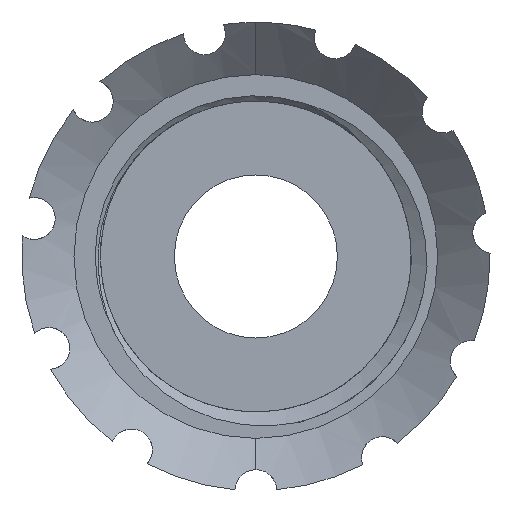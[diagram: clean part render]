
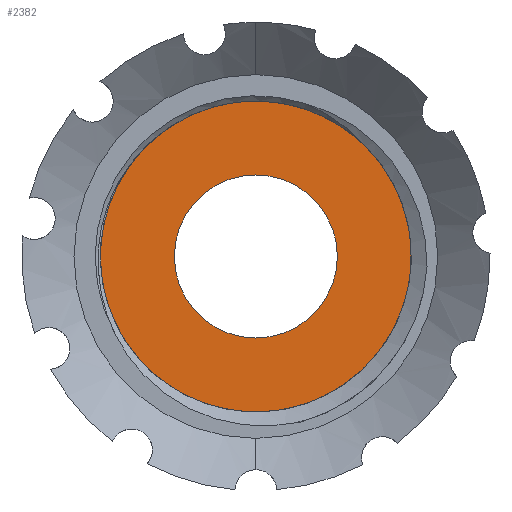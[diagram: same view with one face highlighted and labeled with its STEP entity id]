
A CAD part, front view. The second image highlights one B-rep face of the part: STEP entity #2382.
In plain terms, the highlighted planar face has unit normal (0, -1, 0).
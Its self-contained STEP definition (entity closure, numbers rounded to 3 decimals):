
#7 = CARTESIAN_POINT ( 'NONE',  ( 5.926, 3.75, -4.492 ) ) ;
#70 = CARTESIAN_POINT ( 'NONE',  ( 6.214, 3.75, 4.976 ) ) ;
#85 = CARTESIAN_POINT ( 'NONE',  ( 6.873, 3.75, 3.891 ) ) ;
#89 = CARTESIAN_POINT ( 'NONE',  ( 5.336, 3.75, -5.271 ) ) ;
#140 = CARTESIAN_POINT ( 'NONE',  ( 3.9, 3.75, 0. ) ) ;
#150 = VERTEX_POINT ( 'NONE', #2504 ) ;
#310 = ORIENTED_EDGE ( 'NONE', *, *, #1003, .T. ) ;
#338 = CARTESIAN_POINT ( 'NONE',  ( 7.218, 3.75, -2.305 ) ) ;
#357 = ORIENTED_EDGE ( 'NONE', *, *, #1772, .F. ) ;
#361 = CARTESIAN_POINT ( 'NONE',  ( 2.91, 3.75, -6.912 ) ) ;
#395 = CARTESIAN_POINT ( 'NONE',  ( 4.924, 3.75, 6.393 ) ) ;
#407 = CARTESIAN_POINT ( 'NONE',  ( 0., 3.75, 0. ) ) ;
#520 = DIRECTION ( 'NONE',  ( 1., 0., 0. ) ) ;
#527 = CARTESIAN_POINT ( 'NONE',  ( -5.422, 3.75, -5.208 ) ) ;
#591 = DIRECTION ( 'NONE',  ( 0., 0., -1. ) ) ;
#628 = ORIENTED_EDGE ( 'NONE', *, *, #3462, .T. ) ;
#637 = CARTESIAN_POINT ( 'NONE',  ( -2.809, 3.75, -6.903 ) ) ;
#650 = CARTESIAN_POINT ( 'NONE',  ( 5.816, 3.75, 5.48 ) ) ;
#654 = CARTESIAN_POINT ( 'NONE',  ( 1.969, 3.75, -7.237 ) ) ;
#685 = CARTESIAN_POINT ( 'NONE',  ( 4.424, 3.75, 6.785 ) ) ;
#705 = CARTESIAN_POINT ( 'NONE',  ( 5.926, 3.75, -4.492 ) ) ;
#730 = CIRCLE ( 'NONE', #2837, 8.2 ) ;
#783 = CARTESIAN_POINT ( 'NONE',  ( 0., 3.75, 0. ) ) ;
#811 = CARTESIAN_POINT ( 'NONE',  ( -4.492, 3.75, -5.926 ) ) ;
#825 = CARTESIAN_POINT ( 'NONE',  ( 0., 3.75, 0. ) ) ;
#873 = ORIENTED_EDGE ( 'NONE', *, *, #3702, .T. ) ;
#875 = CARTESIAN_POINT ( 'NONE',  ( 0., 3.75, 0. ) ) ;
#900 = EDGE_CURVE ( 'NONE', #3203, #2830, #3081, .T. ) ;
#915 = VERTEX_POINT ( 'NONE', #1525 ) ;
#923 = CARTESIAN_POINT ( 'NONE',  ( -4.492, 3.75, -5.926 ) ) ;
#964 = CARTESIAN_POINT ( 'NONE',  ( -3.686, 3.75, -6.477 ) ) ;
#973 = DIRECTION ( 'NONE',  ( 0., -1., 0. ) ) ;
#1003 = EDGE_CURVE ( 'NONE', #3603, #150, #730, .T. ) ;
#1039 = CARTESIAN_POINT ( 'NONE',  ( -7.123, 3.75, -2.839 ) ) ;
#1040 = EDGE_LOOP ( 'NONE', ( #1272, #628, #310, #873, #2093, #357 ) ) ;
#1058 = CARTESIAN_POINT ( 'NONE',  ( -6.698, 3.75, -3.604 ) ) ;
#1107 = CIRCLE ( 'NONE', #3523, 3.9 ) ;
#1118 = EDGE_CURVE ( 'NONE', #2142, #2633, #1107, .T. ) ;
#1220 = B_SPLINE_CURVE_WITH_KNOTS ( 'NONE', 3,
 ( #811, #2292, #527, #3709, #2514, #3689, #1058, #1039, #1660, #2245, #3415, #3129 ),
 .UNSPECIFIED., .F., .F.,
 ( 4, 2, 2, 2, 2, 4 ),
 ( 0., 0.002, 0.003, 0.004, 0.005, 0.007 ),
 .UNSPECIFIED. ) ;
#1265 = CARTESIAN_POINT ( 'NONE',  ( 7.135, 3.75, 3.311 ) ) ;
#1272 = ORIENTED_EDGE ( 'NONE', *, *, #900, .F. ) ;
#1292 = AXIS2_PLACEMENT_3D ( 'NONE', #407, #2202, #1618 ) ;
#1358 = CIRCLE ( 'NONE', #2348, 3.9 ) ;
#1406 = EDGE_CURVE ( 'NONE', #2633, #2142, #1358, .T. ) ;
#1416 = DIRECTION ( 'NONE',  ( 0., -1., 0. ) ) ;
#1464 = CARTESIAN_POINT ( 'NONE',  ( 6.342, 3.75, -3.999 ) ) ;
#1484 = CARTESIAN_POINT ( 'NONE',  ( 6.685, 3.75, -3.465 ) ) ;
#1525 = CARTESIAN_POINT ( 'NONE',  ( -7.793, 3.75, 0. ) ) ;
#1550 = CARTESIAN_POINT ( 'NONE',  ( 0.041, 3.75, -7.452 ) ) ;
#1602 = CARTESIAN_POINT ( 'NONE',  ( 3.325, 3.75, 7.455 ) ) ;
#1617 = FACE_BOUND ( 'NONE', #1807, .T. ) ;
#1618 = DIRECTION ( 'NONE',  ( 0., 0., -1. ) ) ;
#1660 = CARTESIAN_POINT ( 'NONE',  ( -7.351, 3.75, -2.288 ) ) ;
#1772 = EDGE_CURVE ( 'NONE', #2830, #2205, #2595, .T. ) ;
#1796 = CARTESIAN_POINT ( 'NONE',  ( 7.419, 3.75, -1.696 ) ) ;
#1807 = EDGE_LOOP ( 'NONE', ( #3722, #3092 ) ) ;
#1818 = CARTESIAN_POINT ( 'NONE',  ( 7.5, 3.75, -1.388 ) ) ;
#1856 = CARTESIAN_POINT ( 'NONE',  ( 4.593, 3.75, -5.929 ) ) ;
#1872 = CARTESIAN_POINT ( 'NONE',  ( -0.922, 3.75, -7.395 ) ) ;
#1914 = CARTESIAN_POINT ( 'NONE',  ( 0., 3.75, 3.9 ) ) ;
#1940 = FACE_OUTER_BOUND ( 'NONE', #1040, .T. ) ;
#2026 = CARTESIAN_POINT ( 'NONE',  ( 7.662, 3.75, -0.451 ) ) ;
#2040 = CARTESIAN_POINT ( 'NONE',  ( -7.818, 3.75, 0. ) ) ;
#2067 = DIRECTION ( 'NONE',  ( 0., -1., 0. ) ) ;
#2093 = ORIENTED_EDGE ( 'NONE', *, *, #3179, .F. ) ;
#2106 = CARTESIAN_POINT ( 'NONE',  ( 7.535, 3.75, 2.092 ) ) ;
#2142 = VERTEX_POINT ( 'NONE', #3629 ) ;
#2189 = CARTESIAN_POINT ( 'NONE',  ( 6.395, 3.75, 4.714 ) ) ;
#2202 = DIRECTION ( 'NONE',  ( 0., -1., 0. ) ) ;
#2205 = VERTEX_POINT ( 'NONE', #3320 ) ;
#2245 = CARTESIAN_POINT ( 'NONE',  ( -7.671, 3.75, -1.166 ) ) ;
#2292 = CARTESIAN_POINT ( 'NONE',  ( -4.981, 3.75, -5.594 ) ) ;
#2332 = CARTESIAN_POINT ( 'NONE',  ( 7.621, 3.75, -0.766 ) ) ;
#2348 = AXIS2_PLACEMENT_3D ( 'NONE', #825, #2631, #3055 ) ;
#2353 = CARTESIAN_POINT ( 'NONE',  ( 7.703, 3.75, 0.186 ) ) ;
#2382 = ADVANCED_FACE ( 'NONE', ( #1940, #1617 ), #2795, .T. ) ;
#2504 = CARTESIAN_POINT ( 'NONE',  ( -8.2, 3.75, 0. ) ) ;
#2506 = CARTESIAN_POINT ( 'NONE',  ( 0., 3.75, 8.2 ) ) ;
#2514 = CARTESIAN_POINT ( 'NONE',  ( -6.202, 3.75, -4.324 ) ) ;
#2534 = AXIS2_PLACEMENT_3D ( 'NONE', #140, #973, #3407 ) ;
#2595 = B_SPLINE_CURVE_WITH_KNOTS ( 'NONE', 3,
 ( #705, #89, #1856, #361, #654, #2999, #1550, #1872, #3325, #3291, #637, #964, #2747, #923 ),
 .UNSPECIFIED., .F., .F.,
 ( 4, 2, 2, 2, 2, 2, 4 ),
 ( 0., 0.003, 0.006, 0.007, 0.009, 0.01, 0.012 ),
 .UNSPECIFIED. ) ;
#2609 = DIRECTION ( 'NONE',  ( 0., 0., -1. ) ) ;
#2631 = DIRECTION ( 'NONE',  ( 0., -1., 0. ) ) ;
#2633 = VERTEX_POINT ( 'NONE', #1914 ) ;
#2680 = CARTESIAN_POINT ( 'NONE',  ( 7.704, 3.75, 0.51 ) ) ;
#2743 = CARTESIAN_POINT ( 'NONE',  ( 2.13, 3.75, 7.919 ) ) ;
#2747 = CARTESIAN_POINT ( 'NONE',  ( -4.103, 3.75, -6.221 ) ) ;
#2795 = PLANE ( 'NONE',  #2534 ) ;
#2830 = VERTEX_POINT ( 'NONE', #3784 ) ;
#2837 = AXIS2_PLACEMENT_3D ( 'NONE', #875, #2067, #591 ) ;
#2913 = CARTESIAN_POINT ( 'NONE',  ( 7.649, 3.75, 1.467 ) ) ;
#2975 = CARTESIAN_POINT ( 'NONE',  ( 2.13, 3.75, 7.919 ) ) ;
#2999 = CARTESIAN_POINT ( 'NONE',  ( 0.523, 3.75, -7.434 ) ) ;
#3055 = DIRECTION ( 'NONE',  ( 0., 0., -1. ) ) ;
#3068 = CARTESIAN_POINT ( 'NONE',  ( 2.743, 3.75, 7.721 ) ) ;
#3081 = B_SPLINE_CURVE_WITH_KNOTS ( 'NONE', 3,
 ( #2743, #3068, #1602, #685, #395, #3649, #650, #70, #2189, #3613, #85, #1265, #3573, #2106, #2913, #2680, #2353, #2026, #2332, #1818, #1796, #338, #3554, #1484, #1464, #7 ),
 .UNSPECIFIED., .F., .F.,
 ( 4, 2, 2, 2, 2, 2, 2, 2, 2, 2, 2, 2, 4 ),
 ( 0., 0.002, 0.004, 0.005, 0.006, 0.007, 0.008, 0.01, 0.011, 0.012, 0.012, 0.013, 0.015 ),
 .UNSPECIFIED. ) ;
#3085 = CIRCLE ( 'NONE', #1292, 8.2 ) ;
#3092 = ORIENTED_EDGE ( 'NONE', *, *, #1406, .F. ) ;
#3129 = CARTESIAN_POINT ( 'NONE',  ( -7.793, 3.75, 0. ) ) ;
#3179 = EDGE_CURVE ( 'NONE', #2205, #915, #1220, .T. ) ;
#3199 = LINE ( 'NONE', #2040, #3582 ) ;
#3203 = VERTEX_POINT ( 'NONE', #2975 ) ;
#3291 = CARTESIAN_POINT ( 'NONE',  ( -2.349, 3.75, -7.072 ) ) ;
#3320 = CARTESIAN_POINT ( 'NONE',  ( -4.492, 3.75, -5.926 ) ) ;
#3325 = CARTESIAN_POINT ( 'NONE',  ( -1.406, 3.75, -7.318 ) ) ;
#3407 = DIRECTION ( 'NONE',  ( 0., 0., -1. ) ) ;
#3415 = CARTESIAN_POINT ( 'NONE',  ( -7.766, 3.75, -0.59 ) ) ;
#3462 = EDGE_CURVE ( 'NONE', #3203, #3603, #3085, .T. ) ;
#3523 = AXIS2_PLACEMENT_3D ( 'NONE', #783, #1416, #2609 ) ;
#3554 = CARTESIAN_POINT ( 'NONE',  ( 7.098, 3.75, -2.605 ) ) ;
#3573 = CARTESIAN_POINT ( 'NONE',  ( 7.25, 3.75, 3.009 ) ) ;
#3582 = VECTOR ( 'NONE', #520, 1000. ) ;
#3603 = VERTEX_POINT ( 'NONE', #2506 ) ;
#3613 = CARTESIAN_POINT ( 'NONE',  ( 6.725, 3.75, 4.172 ) ) ;
#3629 = CARTESIAN_POINT ( 'NONE',  ( 0., 3.75, -3.9 ) ) ;
#3649 = CARTESIAN_POINT ( 'NONE',  ( 5.601, 3.75, 5.72 ) ) ;
#3689 = CARTESIAN_POINT ( 'NONE',  ( -6.542, 3.75, -3.85 ) ) ;
#3702 = EDGE_CURVE ( 'NONE', #150, #915, #3199, .T. ) ;
#3709 = CARTESIAN_POINT ( 'NONE',  ( -6.017, 3.75, -4.554 ) ) ;
#3722 = ORIENTED_EDGE ( 'NONE', *, *, #1118, .F. ) ;
#3784 = CARTESIAN_POINT ( 'NONE',  ( 5.926, 3.75, -4.492 ) ) ;
